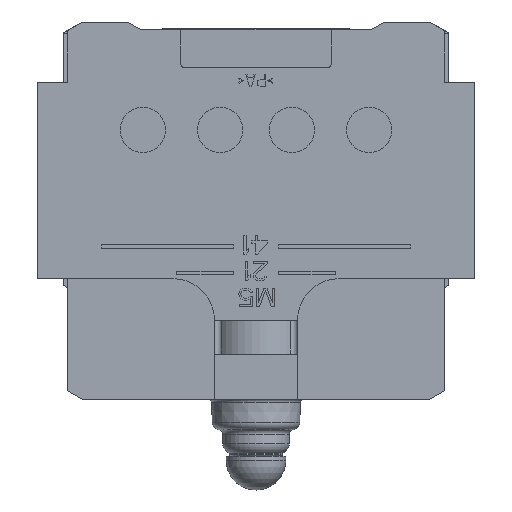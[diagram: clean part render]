
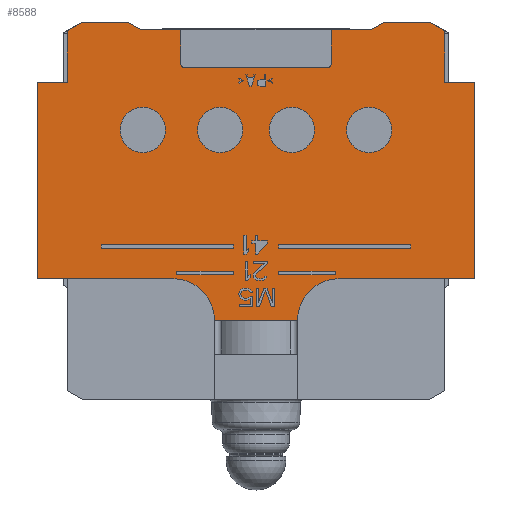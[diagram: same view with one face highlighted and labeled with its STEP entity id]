
A CAD part, front view. The second image highlights one B-rep face of the part: STEP entity #8588.
In plain terms, the highlighted planar face has unit normal (0, -1, 0).
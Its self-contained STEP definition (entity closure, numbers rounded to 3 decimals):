
#363=DIRECTION('',(0.,0.,1.));
#364=VECTOR('',#363,6.845);
#365=CARTESIAN_POINT('',(-25.,-9.5,42.));
#366=LINE('',#365,#364);
#493=DIRECTION('',(1.,0.,0.));
#494=VECTOR('',#493,6.);
#495=CARTESIAN_POINT('',(17.,-9.5,50.));
#496=LINE('',#495,#494);
#514=DIRECTION('',(1.,0.,0.));
#515=VECTOR('',#514,6.);
#516=CARTESIAN_POINT('',(-23.,-9.5,50.));
#517=LINE('',#516,#515);
#615=DIRECTION('',(0.,0.,-1.));
#616=VECTOR('',#615,6.845);
#617=CARTESIAN_POINT('',(25.,-9.5,48.845));
#618=LINE('',#617,#616);
#980=DIRECTION('',(-0.866,0.,-0.5));
#981=VECTOR('',#980,2.);
#982=CARTESIAN_POINT('',(17.,-9.5,50.));
#983=LINE('',#982,#981);
#1001=DIRECTION('',(-1.,0.,0.));
#1002=VECTOR('',#1001,5.268);
#1003=CARTESIAN_POINT('',(15.268,-9.5,49.));
#1004=LINE('',#1003,#1002);
#1022=DIRECTION('',(-1.,0.,0.));
#1023=VECTOR('',#1022,5.268);
#1024=CARTESIAN_POINT('',(-10.,-9.5,49.));
#1025=LINE('',#1024,#1023);
#1043=DIRECTION('',(-0.866,0.,0.5));
#1044=VECTOR('',#1043,2.);
#1045=CARTESIAN_POINT('',(-15.268,-9.5,49.));
#1046=LINE('',#1045,#1044);
#1064=DIRECTION('',(-0.866,0.,0.5));
#1065=VECTOR('',#1064,2.309);
#1066=CARTESIAN_POINT('',(25.,-9.5,48.845));
#1067=LINE('',#1066,#1065);
#1092=DIRECTION('',(-0.866,0.,-0.5));
#1093=VECTOR('',#1092,2.309);
#1094=CARTESIAN_POINT('',(-23.,-9.5,50.));
#1095=LINE('',#1094,#1093);
#1239=DIRECTION('',(0.,0.,-1.));
#1240=VECTOR('',#1239,26.);
#1241=CARTESIAN_POINT('',(29.,-9.5,42.));
#1242=LINE('',#1241,#1240);
#1275=DIRECTION('',(1.,0.,0.));
#1276=VECTOR('',#1275,4.);
#1277=CARTESIAN_POINT('',(25.,-9.5,42.));
#1278=LINE('',#1277,#1276);
#1289=DIRECTION('',(1.,0.,0.));
#1290=VECTOR('',#1289,4.);
#1291=CARTESIAN_POINT('',(25.,-9.5,16.));
#1292=LINE('',#1291,#1290);
#1296=DIRECTION('',(0.,0.,-1.));
#1297=VECTOR('',#1296,26.);
#1298=CARTESIAN_POINT('',(-29.,-9.5,42.));
#1299=LINE('',#1298,#1297);
#1332=DIRECTION('',(-1.,0.,0.));
#1333=VECTOR('',#1332,4.);
#1334=CARTESIAN_POINT('',(-25.,-9.5,42.));
#1335=LINE('',#1334,#1333);
#1346=DIRECTION('',(-1.,0.,0.));
#1347=VECTOR('',#1346,4.);
#1348=CARTESIAN_POINT('',(-25.,-9.5,16.));
#1349=LINE('',#1348,#1347);
#2114=DIRECTION('',(0.,0.,1.));
#2115=VECTOR('',#2114,4.5);
#2116=CARTESIAN_POINT('',(-10.,-9.5,44.5));
#2117=LINE('',#2116,#2115);
#2121=DIRECTION('',(-1.,0.,0.));
#2122=VECTOR('',#2121,19.);
#2123=CARTESIAN_POINT('',(9.5,-9.5,44.));
#2124=LINE('',#2123,#2122);
#2128=DIRECTION('',(0.,0.,-1.));
#2129=VECTOR('',#2128,4.5);
#2130=CARTESIAN_POINT('',(10.,-9.5,49.));
#2131=LINE('',#2130,#2129);
#2135=DIRECTION('',(1.,0.,0.));
#2136=VECTOR('',#2135,14.);
#2137=CARTESIAN_POINT('',(11.,-9.5,16.));
#2138=LINE('',#2137,#2136);
#2142=CARTESIAN_POINT('',(11.,-9.5,10.5));
#2143=DIRECTION('',(0.,1.,0.));
#2144=DIRECTION('',(-1.,0.,0.));
#2145=AXIS2_PLACEMENT_3D('',#2142,#2143,#2144);
#2150=DIRECTION('',(-1.,0.,0.));
#2151=VECTOR('',#2150,11.);
#2152=CARTESIAN_POINT('',(5.5,-9.5,10.5));
#2153=LINE('',#2152,#2151);
#2157=CARTESIAN_POINT('',(-11.,-9.5,10.5));
#2158=DIRECTION('',(0.,1.,0.));
#2159=DIRECTION('',(0.,0.,1.));
#2160=AXIS2_PLACEMENT_3D('',#2157,#2158,#2159);
#2165=DIRECTION('',(1.,0.,0.));
#2166=VECTOR('',#2165,14.);
#2167=CARTESIAN_POINT('',(-25.,-9.5,16.));
#2168=LINE('',#2167,#2166);
#2214=CARTESIAN_POINT('',(9.5,-9.5,44.5));
#2215=DIRECTION('',(0.,1.,0.));
#2216=DIRECTION('',(1.,0.,0.));
#2217=AXIS2_PLACEMENT_3D('',#2214,#2215,#2216);
#2244=CARTESIAN_POINT('',(-9.5,-9.5,44.5));
#2245=DIRECTION('',(0.,1.,0.));
#2246=DIRECTION('',(0.,0.,-1.));
#2247=AXIS2_PLACEMENT_3D('',#2244,#2245,#2246);
#5760=CARTESIAN_POINT('',(-25.,-9.5,42.));
#5761=CARTESIAN_POINT('',(-25.,-9.5,48.845));
#5762=VERTEX_POINT('',#5760);
#5763=VERTEX_POINT('',#5761);
#5764=CARTESIAN_POINT('',(25.,-9.5,48.845));
#5765=CARTESIAN_POINT('',(25.,-9.5,42.));
#5766=VERTEX_POINT('',#5764);
#5767=VERTEX_POINT('',#5765);
#5772=CARTESIAN_POINT('',(15.268,-9.5,49.));
#5773=CARTESIAN_POINT('',(10.,-9.5,49.));
#5774=VERTEX_POINT('',#5772);
#5775=VERTEX_POINT('',#5773);
#5780=CARTESIAN_POINT('',(11.,-9.5,16.));
#5781=CARTESIAN_POINT('',(25.,-9.5,16.));
#5782=VERTEX_POINT('',#5780);
#5783=VERTEX_POINT('',#5781);
#5784=CARTESIAN_POINT('',(-25.,-9.5,16.));
#5785=CARTESIAN_POINT('',(-11.,-9.5,16.));
#5786=VERTEX_POINT('',#5784);
#5787=VERTEX_POINT('',#5785);
#5788=CARTESIAN_POINT('',(-23.,-9.5,50.));
#5789=CARTESIAN_POINT('',(-17.,-9.5,50.));
#5790=VERTEX_POINT('',#5788);
#5791=VERTEX_POINT('',#5789);
#5792=CARTESIAN_POINT('',(17.,-9.5,50.));
#5793=CARTESIAN_POINT('',(23.,-9.5,50.));
#5794=VERTEX_POINT('',#5792);
#5795=VERTEX_POINT('',#5793);
#5796=CARTESIAN_POINT('',(-15.268,-9.5,49.));
#5797=VERTEX_POINT('',#5796);
#5798=CARTESIAN_POINT('',(29.,-9.5,42.));
#5799=CARTESIAN_POINT('',(29.,-9.5,16.));
#5800=VERTEX_POINT('',#5798);
#5801=VERTEX_POINT('',#5799);
#5802=CARTESIAN_POINT('',(-29.,-9.5,42.));
#5803=CARTESIAN_POINT('',(-29.,-9.5,16.));
#5804=VERTEX_POINT('',#5802);
#5805=VERTEX_POINT('',#5803);
#5806=CARTESIAN_POINT('',(-10.,-9.5,49.));
#5807=VERTEX_POINT('',#5806);
#5808=CARTESIAN_POINT('',(10.,-9.5,44.5));
#5810=VERTEX_POINT('',#5808);
#5812=CARTESIAN_POINT('',(9.5,-9.5,44.));
#5814=VERTEX_POINT('',#5812);
#5816=CARTESIAN_POINT('',(-9.5,-9.5,44.));
#5818=VERTEX_POINT('',#5816);
#5820=CARTESIAN_POINT('',(-10.,-9.5,44.5));
#5822=VERTEX_POINT('',#5820);
#5904=CARTESIAN_POINT('',(5.5,-9.5,10.5));
#5905=CARTESIAN_POINT('',(-5.5,-9.5,10.5));
#5906=VERTEX_POINT('',#5904);
#5907=VERTEX_POINT('',#5905);
#8545=CARTESIAN_POINT('',(0.,-9.5,0.));
#8546=DIRECTION('',(0.,-1.,0.));
#8547=DIRECTION('',(0.,0.,-1.));
#8548=AXIS2_PLACEMENT_3D('',#8545,#8546,#8547);
#8549=PLANE('',#8548);
#8551=ORIENTED_EDGE('',*,*,#8550,.F.);
#8553=ORIENTED_EDGE('',*,*,#8552,.F.);
#8555=ORIENTED_EDGE('',*,*,#8554,.F.);
#8557=ORIENTED_EDGE('',*,*,#8556,.F.);
#8559=ORIENTED_EDGE('',*,*,#8558,.F.);
#8560=ORIENTED_EDGE('',*,*,#7182,.F.);
#8561=ORIENTED_EDGE('',*,*,#7160,.F.);
#8562=ORIENTED_EDGE('',*,*,#6758,.T.);
#8563=ORIENTED_EDGE('',*,*,#7232,.F.);
#8564=ORIENTED_EDGE('',*,*,#6824,.T.);
#8565=ORIENTED_EDGE('',*,*,#7413,.T.);
#8566=ORIENTED_EDGE('',*,*,#7368,.T.);
#8567=ORIENTED_EDGE('',*,*,#7433,.F.);
#8569=ORIENTED_EDGE('',*,*,#8568,.F.);
#8571=ORIENTED_EDGE('',*,*,#8570,.F.);
#8573=ORIENTED_EDGE('',*,*,#8572,.T.);
#8575=ORIENTED_EDGE('',*,*,#8574,.F.);
#8577=ORIENTED_EDGE('',*,*,#8576,.F.);
#8578=ORIENTED_EDGE('',*,*,#7518,.T.);
#8579=ORIENTED_EDGE('',*,*,#7453,.F.);
#8580=ORIENTED_EDGE('',*,*,#7498,.F.);
#8581=ORIENTED_EDGE('',*,*,#6685,.T.);
#8582=ORIENTED_EDGE('',*,*,#7253,.F.);
#8583=ORIENTED_EDGE('',*,*,#6781,.T.);
#8584=ORIENTED_EDGE('',*,*,#7211,.F.);
#8585=ORIENTED_EDGE('',*,*,#7189,.F.);
#8586=EDGE_LOOP('',(#8551,#8553,#8555,#8557,#8559,#8560,#8561,#8562,#8563,#8564,
#8565,#8566,#8567,#8569,#8571,#8573,#8575,#8577,#8578,#8579,#8580,#8581,#8582,
#8583,#8584,#8585));
#8587=FACE_OUTER_BOUND('',#8586,.F.);
#8588=ADVANCED_FACE('',(#8587),#8549,.T.);
#2146=CIRCLE('',#2145,5.5);
#2161=CIRCLE('',#2160,5.5);
#2218=CIRCLE('',#2217,0.5);
#2248=CIRCLE('',#2247,0.5);
#6685=EDGE_CURVE('',#5762,#5763,#366,.T.);
#6758=EDGE_CURVE('',#5794,#5795,#496,.T.);
#6781=EDGE_CURVE('',#5790,#5791,#517,.T.);
#6824=EDGE_CURVE('',#5766,#5767,#618,.T.);
#7160=EDGE_CURVE('',#5794,#5774,#983,.T.);
#7182=EDGE_CURVE('',#5774,#5775,#1004,.T.);
#7189=EDGE_CURVE('',#5807,#5797,#1025,.T.);
#7211=EDGE_CURVE('',#5797,#5791,#1046,.T.);
#7232=EDGE_CURVE('',#5766,#5795,#1067,.T.);
#7253=EDGE_CURVE('',#5790,#5763,#1095,.T.);
#7368=EDGE_CURVE('',#5800,#5801,#1242,.T.);
#7413=EDGE_CURVE('',#5767,#5800,#1278,.T.);
#7433=EDGE_CURVE('',#5783,#5801,#1292,.T.);
#7453=EDGE_CURVE('',#5804,#5805,#1299,.T.);
#7498=EDGE_CURVE('',#5762,#5804,#1335,.T.);
#7518=EDGE_CURVE('',#5786,#5805,#1349,.T.);
#8550=EDGE_CURVE('',#5822,#5807,#2117,.T.);
#8552=EDGE_CURVE('',#5818,#5822,#2248,.T.);
#8554=EDGE_CURVE('',#5814,#5818,#2124,.T.);
#8556=EDGE_CURVE('',#5810,#5814,#2218,.T.);
#8558=EDGE_CURVE('',#5775,#5810,#2131,.T.);
#8568=EDGE_CURVE('',#5782,#5783,#2138,.T.);
#8570=EDGE_CURVE('',#5906,#5782,#2146,.T.);
#8572=EDGE_CURVE('',#5906,#5907,#2153,.T.);
#8574=EDGE_CURVE('',#5787,#5907,#2161,.T.);
#8576=EDGE_CURVE('',#5786,#5787,#2168,.T.);
